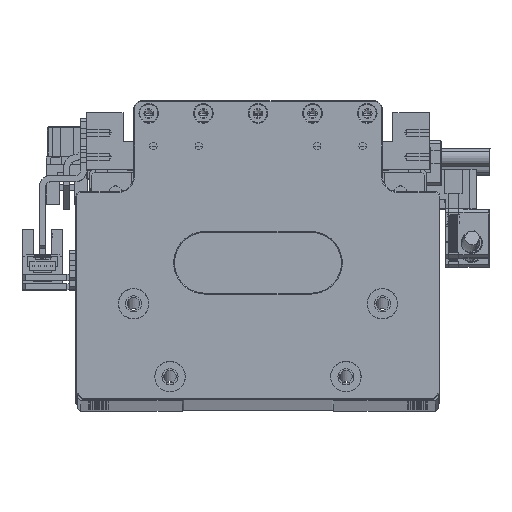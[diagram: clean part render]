
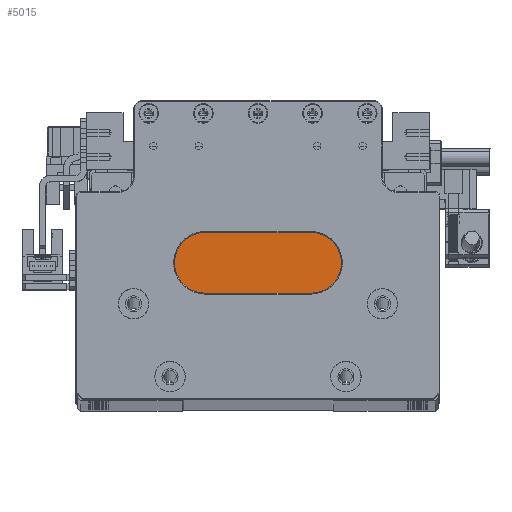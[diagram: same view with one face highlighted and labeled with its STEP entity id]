
A CAD part, top view. The second image highlights one B-rep face of the part: STEP entity #5015.
In plain terms, the highlighted planar face has unit normal (0, 0, 1).
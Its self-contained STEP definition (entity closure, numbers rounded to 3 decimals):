
#2056 = DIRECTION ( 'NONE',  ( 1., 0., 0. ) ) ;
#2081 = VERTEX_POINT ( 'NONE', #67053 ) ;
#2868 = FACE_OUTER_BOUND ( 'NONE', #45650, .T. ) ;
#4576 = PLANE ( 'NONE',  #87530 ) ;
#5015 = ADVANCED_FACE ( 'NONE', ( #2868, #81869, #57641 ), #4576, .T. ) ;
#5946 = EDGE_CURVE ( 'NONE', #7739, #39587, #39671, .T. ) ;
#7739 = VERTEX_POINT ( 'NONE', #49900 ) ;
#7767 = CARTESIAN_POINT ( 'NONE',  ( -34.632, -49.023, 340. ) ) ;
#12485 = DIRECTION ( 'NONE',  ( -1., 0., 0. ) ) ;
#13483 = ORIENTED_EDGE ( 'NONE', *, *, #88345, .T. ) ;
#15242 = CARTESIAN_POINT ( 'NONE',  ( -4.632, -9.223, 340. ) ) ;
#20090 = CARTESIAN_POINT ( 'NONE',  ( 1.618, -17.023, 340. ) ) ;
#20851 = DIRECTION ( 'NONE',  ( -1., 0., 0. ) ) ;
#21403 = ORIENTED_EDGE ( 'NONE', *, *, #63135, .T. ) ;
#21549 = VERTEX_POINT ( 'NONE', #89810 ) ;
#23741 = EDGE_CURVE ( 'NONE', #84406, #7739, #44375, .T. ) ;
#24749 = ORIENTED_EDGE ( 'NONE', *, *, #125226, .T. ) ;
#25274 = DIRECTION ( 'NONE',  ( 0., 0., 1. ) ) ;
#26279 = CARTESIAN_POINT ( 'NONE',  ( -12.132, -17.023, 340. ) ) ;
#30559 = DIRECTION ( 'NONE',  ( 0., 0., -1. ) ) ;
#32970 = EDGE_CURVE ( 'NONE', #69398, #84406, #54259, .T. ) ;
#34098 = LINE ( 'NONE', #69216, #88996 ) ;
#35800 = DIRECTION ( 'NONE',  ( 0., 0., -1. ) ) ;
#36404 = VECTOR ( 'NONE', #122014, 1000. ) ;
#36618 = DIRECTION ( 'NONE',  ( 1., 0., 0. ) ) ;
#39587 = VERTEX_POINT ( 'NONE', #123369 ) ;
#39671 = LINE ( 'NONE', #111643, #36404 ) ;
#40364 = AXIS2_PLACEMENT_3D ( 'NONE', #26279, #98450, #36618 ) ;
#40553 = EDGE_LOOP ( 'NONE', ( #86641, #40641 ) ) ;
#40641 = ORIENTED_EDGE ( 'NONE', *, *, #63694, .T. ) ;
#41839 = VERTEX_POINT ( 'NONE', #66822 ) ;
#42998 = ORIENTED_EDGE ( 'NONE', *, *, #55796, .T. ) ;
#43732 = CIRCLE ( 'NONE', #94563, 1.25 ) ;
#44375 = LINE ( 'NONE', #7767, #65315 ) ;
#45650 = EDGE_LOOP ( 'NONE', ( #42998, #13483, #77827, #110420, #48665, #101088, #76967, #64017 ) ) ;
#45961 = VECTOR ( 'NONE', #20851, 1000. ) ;
#46388 = CARTESIAN_POINT ( 'NONE',  ( -23.132, -17.023, 340. ) ) ;
#48536 = DIRECTION ( 'NONE',  ( 0., -1., 0. ) ) ;
#48665 = ORIENTED_EDGE ( 'NONE', *, *, #23741, .T. ) ;
#49076 = EDGE_CURVE ( 'NONE', #41839, #77391, #74618, .T. ) ;
#49900 = CARTESIAN_POINT ( 'NONE',  ( 25.168, -49.023, 340. ) ) ;
#53233 = LINE ( 'NONE', #105373, #80627 ) ;
#54259 = LINE ( 'NONE', #131010, #84905 ) ;
#55796 = EDGE_CURVE ( 'NONE', #2081, #77961, #87197, .T. ) ;
#57641 = FACE_BOUND ( 'NONE', #40553, .T. ) ;
#60829 = VECTOR ( 'NONE', #104703, 1000. ) ;
#63135 = EDGE_CURVE ( 'NONE', #103992, #66756, #92603, .T. ) ;
#63694 = EDGE_CURVE ( 'NONE', #77391, #41839, #110051, .T. ) ;
#63797 = DIRECTION ( 'NONE',  ( 0., 0., -1. ) ) ;
#64017 = ORIENTED_EDGE ( 'NONE', *, *, #83981, .T. ) ;
#65315 = VECTOR ( 'NONE', #120465, 1000. ) ;
#66627 = DIRECTION ( 'NONE',  ( -1., 0., 0. ) ) ;
#66756 = VERTEX_POINT ( 'NONE', #77938 ) ;
#66822 = CARTESIAN_POINT ( 'NONE',  ( -10.882, -17.023, 340. ) ) ;
#67053 = CARTESIAN_POINT ( 'NONE',  ( 13.868, -9.223, 340. ) ) ;
#69216 = CARTESIAN_POINT ( 'NONE',  ( 13.868, -9.023, 340. ) ) ;
#69398 = VERTEX_POINT ( 'NONE', #130185 ) ;
#74618 = CIRCLE ( 'NONE', #106881, 1.25 ) ;
#76639 = CARTESIAN_POINT ( 'NONE',  ( -4.632, -9.023, 340. ) ) ;
#76967 = ORIENTED_EDGE ( 'NONE', *, *, #117962, .T. ) ;
#77391 = VERTEX_POINT ( 'NONE', #84697 ) ;
#77827 = ORIENTED_EDGE ( 'NONE', *, *, #104630, .T. ) ;
#77938 = CARTESIAN_POINT ( 'NONE',  ( 4.118, -17.023, 340. ) ) ;
#77961 = VERTEX_POINT ( 'NONE', #88541 ) ;
#79576 = DIRECTION ( 'NONE',  ( 0., 1., 0. ) ) ;
#80280 = EDGE_LOOP ( 'NONE', ( #24749, #21403 ) ) ;
#80627 = VECTOR ( 'NONE', #12485, 1000. ) ;
#81869 = FACE_BOUND ( 'NONE', #80280, .T. ) ;
#83981 = EDGE_CURVE ( 'NONE', #21549, #2081, #34098, .T. ) ;
#84406 = VERTEX_POINT ( 'NONE', #123786 ) ;
#84697 = CARTESIAN_POINT ( 'NONE',  ( -13.382, -17.023, 340. ) ) ;
#84905 = VECTOR ( 'NONE', #48536, 1000. ) ;
#86641 = ORIENTED_EDGE ( 'NONE', *, *, #49076, .T. ) ;
#87197 = LINE ( 'NONE', #15242, #111431 ) ;
#87530 = AXIS2_PLACEMENT_3D ( 'NONE', #76639, #25274, #97405 ) ;
#88345 = EDGE_CURVE ( 'NONE', #77961, #115757, #91497, .T. ) ;
#88541 = CARTESIAN_POINT ( 'NONE',  ( -23.132, -9.223, 340. ) ) ;
#88996 = VECTOR ( 'NONE', #79576, 1000. ) ;
#89810 = CARTESIAN_POINT ( 'NONE',  ( 13.868, -17.023, 340. ) ) ;
#91497 = LINE ( 'NONE', #124983, #60829 ) ;
#92332 = CARTESIAN_POINT ( 'NONE',  ( 2.868, -17.023, 340. ) ) ;
#92603 = CIRCLE ( 'NONE', #93961, 1.25 ) ;
#93961 = AXIS2_PLACEMENT_3D ( 'NONE', #125576, #63797, #2056 ) ;
#94563 = AXIS2_PLACEMENT_3D ( 'NONE', #92332, #30559, #102746 ) ;
#97405 = DIRECTION ( 'NONE',  ( 1., 0., 0. ) ) ;
#97635 = CARTESIAN_POINT ( 'NONE',  ( -12.132, -17.023, 340. ) ) ;
#98450 = DIRECTION ( 'NONE',  ( 0., 0., -1. ) ) ;
#101088 = ORIENTED_EDGE ( 'NONE', *, *, #5946, .T. ) ;
#102746 = DIRECTION ( 'NONE',  ( 1., 0., 0. ) ) ;
#103384 = CARTESIAN_POINT ( 'NONE',  ( -4.632, -17.023, 340. ) ) ;
#103992 = VERTEX_POINT ( 'NONE', #20090 ) ;
#104630 = EDGE_CURVE ( 'NONE', #115757, #69398, #128279, .T. ) ;
#104703 = DIRECTION ( 'NONE',  ( 0., -1., 0. ) ) ;
#105373 = CARTESIAN_POINT ( 'NONE',  ( -4.632, -17.023, 340. ) ) ;
#106881 = AXIS2_PLACEMENT_3D ( 'NONE', #97635, #35800, #107990 ) ;
#107990 = DIRECTION ( 'NONE',  ( 1., 0., 0. ) ) ;
#110051 = CIRCLE ( 'NONE', #40364, 1.25 ) ;
#110420 = ORIENTED_EDGE ( 'NONE', *, *, #32970, .T. ) ;
#111431 = VECTOR ( 'NONE', #66627, 1000. ) ;
#111643 = CARTESIAN_POINT ( 'NONE',  ( 25.168, -9.023, 340. ) ) ;
#115757 = VERTEX_POINT ( 'NONE', #46388 ) ;
#117962 = EDGE_CURVE ( 'NONE', #39587, #21549, #53233, .T. ) ;
#120465 = DIRECTION ( 'NONE',  ( 1., 0., 0. ) ) ;
#122014 = DIRECTION ( 'NONE',  ( 0., 1., 0. ) ) ;
#123369 = CARTESIAN_POINT ( 'NONE',  ( 25.168, -17.023, 340. ) ) ;
#123786 = CARTESIAN_POINT ( 'NONE',  ( -34.432, -49.023, 340. ) ) ;
#124983 = CARTESIAN_POINT ( 'NONE',  ( -23.132, -9.023, 340. ) ) ;
#125226 = EDGE_CURVE ( 'NONE', #66756, #103992, #43732, .T. ) ;
#125576 = CARTESIAN_POINT ( 'NONE',  ( 2.868, -17.023, 340. ) ) ;
#128279 = LINE ( 'NONE', #103384, #45961 ) ;
#130185 = CARTESIAN_POINT ( 'NONE',  ( -34.432, -17.023, 340. ) ) ;
#131010 = CARTESIAN_POINT ( 'NONE',  ( -34.432, -9.023, 340. ) ) ;
